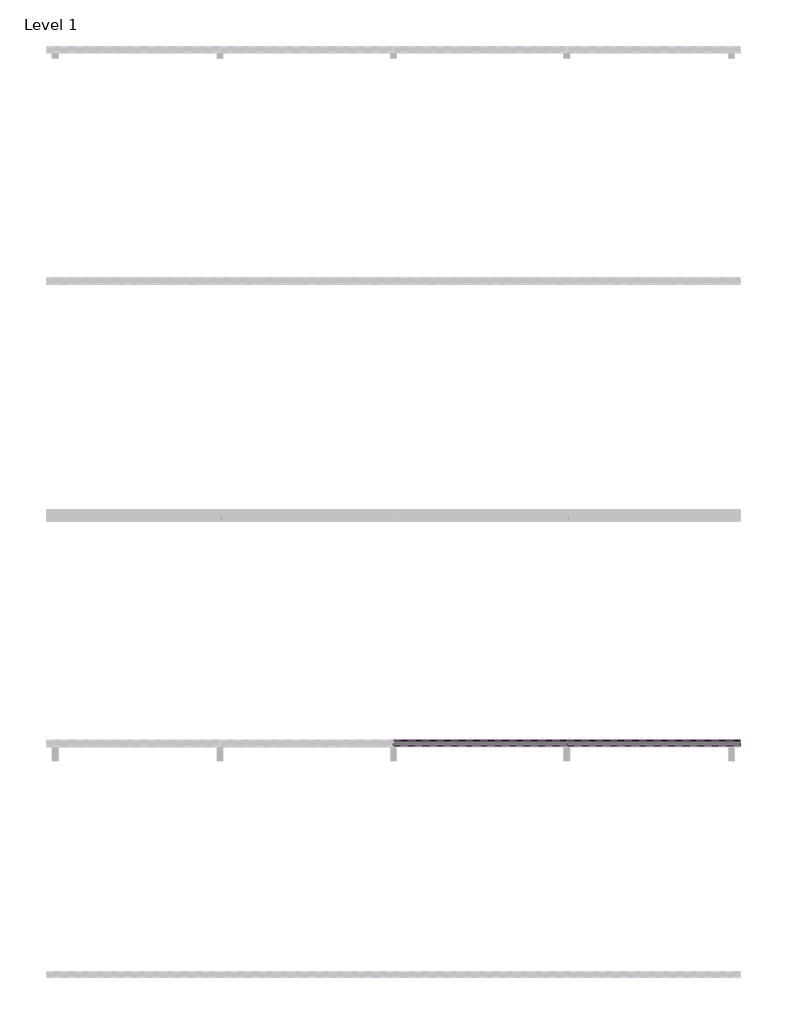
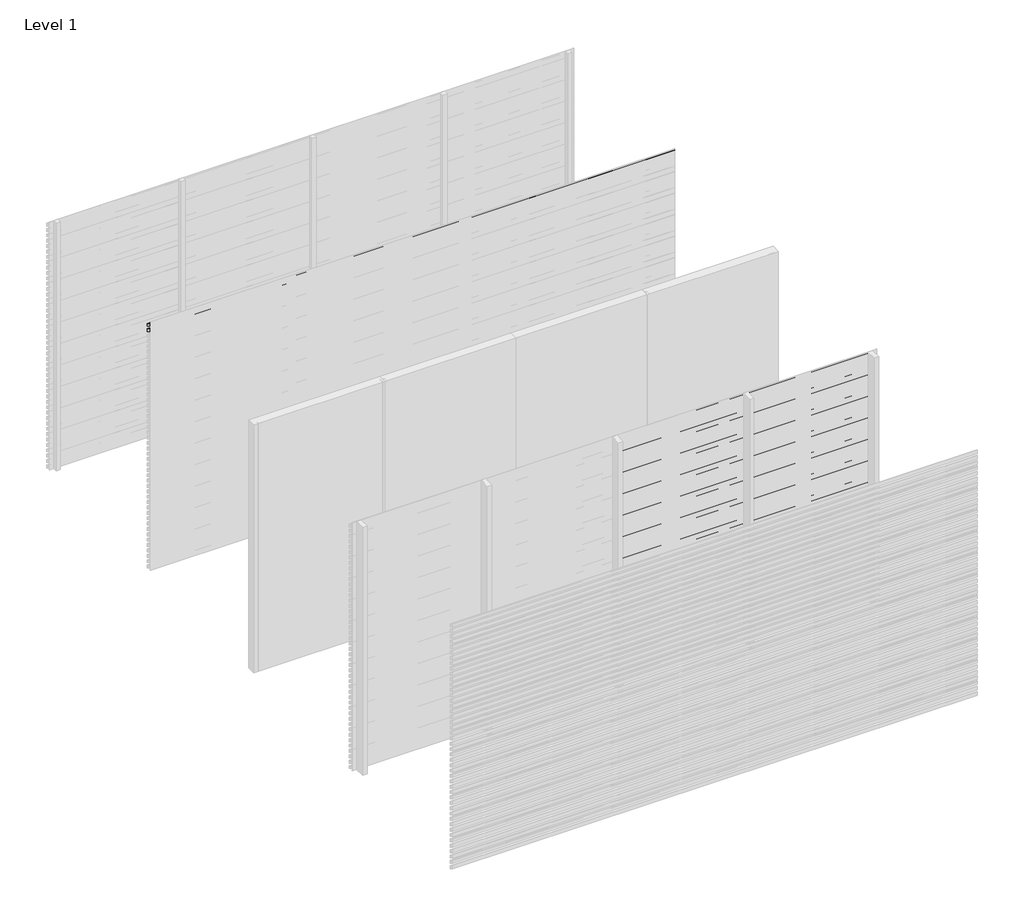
# One storey, part 3 of 10: 96 proxies.
"""IFC4 building model written with IfcOpenShell, lengths in millimetres."""

from ifc_helpers import new_model, si_unit, frame, origin, place, context, project, spatial, polyline, outline, extrude, element, save

model = new_model("IFC4")

# Units and contexts
model_context = context("Model", 3, world=origin())
ifc_project = project(units=[si_unit("LENGTHUNIT", "METRE", prefix="MILLI")], contexts=[model_context])

# Site, building, storey
site = spatial("IfcSite", under=ifc_project)
building = spatial("IfcBuilding", under=site)
storey = spatial("IfcBuildingStorey", under=building, Name="Level 1", Elevation=0.0)

# Proxies
placement = place(None, origin())
element("IfcBuildingElementProxy", 1, Name="Wall Sweeps", at=placement, inside=storey, context=model_context, shape_type="SweptSolid", body=[
    extrude(outline(polyline([(-13995.0, 2990.0), (-13995.0, 2981.2901632), (-13946.0, 2953.0), (-13946.0, 2918.0), (-13997.0, 2947.4448637), (-13997.0, 2990.0), (-13995.0, 2990.0)])), frame((0.0, 0.0, 0.0), z_axis=(1.0, 0.0, 0.0), x_axis=(0.0, 1.0, 0.0)), (0.0, 0.0, 1.0), 6000.0),
])
element("IfcBuildingElementProxy", 2, Name="Wall Sweeps", at=placement, inside=storey, context=model_context, shape_type="SweptSolid", body=[
    extrude(outline(polyline([(-13995.0, 2925.0), (-13995.0, 2916.2901632), (-13946.0, 2888.0), (-13946.0, 2853.0), (-13997.0, 2882.4448637), (-13997.0, 2925.0), (-13995.0, 2925.0)])), frame((0.0, 0.0, 0.0), z_axis=(1.0, 0.0, 0.0), x_axis=(0.0, 1.0, 0.0)), (0.0, 0.0, 1.0), 6000.0),
])
element("IfcBuildingElementProxy", 3, Name="Wall Sweeps", at=placement, inside=storey, context=model_context, shape_type="SweptSolid", body=[
    extrude(outline(polyline([(-17995.0, 2990.0), (-17995.0, 2981.2901632), (-17946.0, 2953.0), (-17946.0, 2918.0), (-17997.0, 2947.4448637), (-17997.0, 2990.0), (-17995.0, 2990.0)])), frame((4499.9999998, 0.0, 0.0), z_axis=(1.0, 0.0, 0.0), x_axis=(0.0, 1.0, 0.0)), (0.0, 0.0, 1.0), 1500.0000002),
])
element("IfcBuildingElementProxy", 4, Name="Wall Sweeps", at=placement, inside=storey, context=model_context, shape_type="SweptSolid", body=[
    extrude(outline(polyline([(-17995.0, 2925.0), (-17995.0, 2916.2901632), (-17946.0, 2888.0), (-17946.0, 2853.0), (-17997.0, 2882.4448637), (-17997.0, 2925.0), (-17995.0, 2925.0)])), frame((4499.9999998, 0.0, 0.0), z_axis=(1.0, 0.0, 0.0), x_axis=(0.0, 1.0, 0.0)), (0.0, 0.0, 1.0), 1500.0000002),
])
element("IfcBuildingElementProxy", 5, Name="Wall Sweeps", at=placement, inside=storey, context=model_context, shape_type="SweptSolid", body=[
    extrude(outline(polyline([(-17995.0, 2860.0), (-17995.0, 2851.2901632), (-17946.0, 2823.0), (-17946.0, 2788.0), (-17997.0, 2817.4448637), (-17997.0, 2860.0), (-17995.0, 2860.0)])), frame((4499.9999998, 0.0, 0.0), z_axis=(1.0, 0.0, 0.0), x_axis=(0.0, 1.0, 0.0)), (0.0, 0.0, 1.0), 1500.0000002),
])
element("IfcBuildingElementProxy", 6, Name="Wall Sweeps", at=placement, inside=storey, context=model_context, shape_type="SweptSolid", body=[
    extrude(outline(polyline([(-17995.0, 2795.0), (-17995.0, 2786.2901632), (-17946.0, 2758.0), (-17946.0, 2723.0), (-17997.0, 2752.4448637), (-17997.0, 2795.0), (-17995.0, 2795.0)])), frame((4499.9999998, 0.0, 0.0), z_axis=(1.0, 0.0, 0.0), x_axis=(0.0, 1.0, 0.0)), (0.0, 0.0, 1.0), 1500.0000002),
])
element("IfcBuildingElementProxy", 7, Name="Wall Sweeps", at=placement, inside=storey, context=model_context, shape_type="SweptSolid", body=[
    extrude(outline(polyline([(-17995.0, 2730.0), (-17995.0, 2721.2901632), (-17946.0, 2693.0), (-17946.0, 2658.0), (-17997.0, 2687.4448637), (-17997.0, 2730.0), (-17995.0, 2730.0)])), frame((4499.9999998, 0.0, 0.0), z_axis=(1.0, 0.0, 0.0), x_axis=(0.0, 1.0, 0.0)), (0.0, 0.0, 1.0), 1500.0000002),
])
element("IfcBuildingElementProxy", 8, Name="Wall Sweeps", at=placement, inside=storey, context=model_context, shape_type="SweptSolid", body=[
    extrude(outline(polyline([(-17995.0, 2665.0), (-17995.0, 2656.2901632), (-17946.0, 2628.0), (-17946.0, 2593.0), (-17997.0, 2622.4448637), (-17997.0, 2665.0), (-17995.0, 2665.0)])), frame((4499.9999998, 0.0, 0.0), z_axis=(1.0, 0.0, 0.0), x_axis=(0.0, 1.0, 0.0)), (0.0, 0.0, 1.0), 1500.0000002),
])
element("IfcBuildingElementProxy", 9, Name="Wall Sweeps", at=placement, inside=storey, context=model_context, shape_type="SweptSolid", body=[
    extrude(outline(polyline([(-17995.0, 2600.0), (-17995.0, 2591.2901632), (-17946.0, 2563.0), (-17946.0, 2528.0), (-17997.0, 2557.4448637), (-17997.0, 2600.0), (-17995.0, 2600.0)])), frame((4499.9999998, 0.0, 0.0), z_axis=(1.0, 0.0, 0.0), x_axis=(0.0, 1.0, 0.0)), (0.0, 0.0, 1.0), 1500.0000002),
])
element("IfcBuildingElementProxy", 10, Name="Wall Sweeps", at=placement, inside=storey, context=model_context, shape_type="SweptSolid", body=[
    extrude(outline(polyline([(-17995.0, 2535.0), (-17995.0, 2526.2901632), (-17946.0, 2498.0), (-17946.0, 2463.0), (-17997.0, 2492.4448637), (-17997.0, 2535.0), (-17995.0, 2535.0)])), frame((4499.9999998, 0.0, 0.0), z_axis=(1.0, 0.0, 0.0), x_axis=(0.0, 1.0, 0.0)), (0.0, 0.0, 1.0), 1500.0000002),
])
element("IfcBuildingElementProxy", 11, Name="Wall Sweeps", at=placement, inside=storey, context=model_context, shape_type="SweptSolid", body=[
    extrude(outline(polyline([(-17995.0, 2470.0), (-17995.0, 2461.2901632), (-17946.0, 2433.0), (-17946.0, 2398.0), (-17997.0, 2427.4448637), (-17997.0, 2470.0), (-17995.0, 2470.0)])), frame((4499.9999998, 0.0, 0.0), z_axis=(1.0, 0.0, 0.0), x_axis=(0.0, 1.0, 0.0)), (0.0, 0.0, 1.0), 1500.0000002),
])
element("IfcBuildingElementProxy", 12, Name="Wall Sweeps", at=placement, inside=storey, context=model_context, shape_type="SweptSolid", body=[
    extrude(outline(polyline([(-17995.0, 2405.0), (-17995.0, 2396.2901632), (-17946.0, 2368.0), (-17946.0, 2333.0), (-17997.0, 2362.4448637), (-17997.0, 2405.0), (-17995.0, 2405.0)])), frame((4499.9999998, 0.0, 0.0), z_axis=(1.0, 0.0, 0.0), x_axis=(0.0, 1.0, 0.0)), (0.0, 0.0, 1.0), 1500.0000002),
])
element("IfcBuildingElementProxy", 13, Name="Wall Sweeps", at=placement, inside=storey, context=model_context, shape_type="SweptSolid", body=[
    extrude(outline(polyline([(-17995.0, 2340.0), (-17995.0, 2331.2901632), (-17946.0, 2303.0), (-17946.0, 2268.0), (-17997.0, 2297.4448637), (-17997.0, 2340.0), (-17995.0, 2340.0)])), frame((4499.9999998, 0.0, 0.0), z_axis=(1.0, 0.0, 0.0), x_axis=(0.0, 1.0, 0.0)), (0.0, 0.0, 1.0), 1500.0000002),
])
element("IfcBuildingElementProxy", 14, Name="Wall Sweeps", at=placement, inside=storey, context=model_context, shape_type="SweptSolid", body=[
    extrude(outline(polyline([(-17995.0, 2275.0), (-17995.0, 2266.2901632), (-17946.0, 2238.0), (-17946.0, 2203.0), (-17997.0, 2232.4448637), (-17997.0, 2275.0), (-17995.0, 2275.0)])), frame((4499.9999998, 0.0, 0.0), z_axis=(1.0, 0.0, 0.0), x_axis=(0.0, 1.0, 0.0)), (0.0, 0.0, 1.0), 1500.0000002),
])
element("IfcBuildingElementProxy", 15, Name="Wall Sweeps", at=placement, inside=storey, context=model_context, shape_type="SweptSolid", body=[
    extrude(outline(polyline([(-17995.0, 2210.0), (-17995.0, 2201.2901632), (-17946.0, 2173.0), (-17946.0, 2138.0), (-17997.0, 2167.4448637), (-17997.0, 2210.0), (-17995.0, 2210.0)])), frame((4499.9999998, 0.0, 0.0), z_axis=(1.0, 0.0, 0.0), x_axis=(0.0, 1.0, 0.0)), (0.0, 0.0, 1.0), 1500.0000002),
])
element("IfcBuildingElementProxy", 16, Name="Wall Sweeps", at=placement, inside=storey, context=model_context, shape_type="SweptSolid", body=[
    extrude(outline(polyline([(-17995.0, 2145.0), (-17995.0, 2136.2901632), (-17946.0, 2108.0), (-17946.0, 2073.0), (-17997.0, 2102.4448637), (-17997.0, 2145.0), (-17995.0, 2145.0)])), frame((4499.9999998, 0.0, 0.0), z_axis=(1.0, 0.0, 0.0), x_axis=(0.0, 1.0, 0.0)), (0.0, 0.0, 1.0), 1500.0000002),
])
element("IfcBuildingElementProxy", 17, Name="Wall Sweeps", at=placement, inside=storey, context=model_context, shape_type="SweptSolid", body=[
    extrude(outline(polyline([(-17995.0, 2080.0), (-17995.0, 2071.2901632), (-17946.0, 2043.0), (-17946.0, 2008.0), (-17997.0, 2037.4448637), (-17997.0, 2080.0), (-17995.0, 2080.0)])), frame((4499.9999998, 0.0, 0.0), z_axis=(1.0, 0.0, 0.0), x_axis=(0.0, 1.0, 0.0)), (0.0, 0.0, 1.0), 1500.0000002),
])
element("IfcBuildingElementProxy", 18, Name="Wall Sweeps", at=placement, inside=storey, context=model_context, shape_type="SweptSolid", body=[
    extrude(outline(polyline([(-17995.0, 2015.0), (-17995.0, 2006.2901632), (-17946.0, 1978.0), (-17946.0, 1943.0), (-17997.0, 1972.4448637), (-17997.0, 2015.0), (-17995.0, 2015.0)])), frame((4499.9999998, 0.0, 0.0), z_axis=(1.0, 0.0, 0.0), x_axis=(0.0, 1.0, 0.0)), (0.0, 0.0, 1.0), 1500.0000002),
])
element("IfcBuildingElementProxy", 19, Name="Wall Sweeps", at=placement, inside=storey, context=model_context, shape_type="SweptSolid", body=[
    extrude(outline(polyline([(-17995.0, 1950.0), (-17995.0, 1941.2901632), (-17946.0, 1913.0), (-17946.0, 1878.0), (-17997.0, 1907.4448637), (-17997.0, 1950.0), (-17995.0, 1950.0)])), frame((4499.9999998, 0.0, 0.0), z_axis=(1.0, 0.0, 0.0), x_axis=(0.0, 1.0, 0.0)), (0.0, 0.0, 1.0), 1500.0000002),
])
element("IfcBuildingElementProxy", 20, Name="Wall Sweeps", at=placement, inside=storey, context=model_context, shape_type="SweptSolid", body=[
    extrude(outline(polyline([(-17995.0, 1885.0), (-17995.0, 1876.2901632), (-17946.0, 1848.0), (-17946.0, 1813.0), (-17997.0, 1842.4448637), (-17997.0, 1885.0), (-17995.0, 1885.0)])), frame((4499.9999998, 0.0, 0.0), z_axis=(1.0, 0.0, 0.0), x_axis=(0.0, 1.0, 0.0)), (0.0, 0.0, 1.0), 1500.0000002),
])
element("IfcBuildingElementProxy", 21, Name="Wall Sweeps", at=placement, inside=storey, context=model_context, shape_type="SweptSolid", body=[
    extrude(outline(polyline([(-17995.0, 1820.0), (-17995.0, 1811.2901632), (-17946.0, 1783.0), (-17946.0, 1748.0), (-17997.0, 1777.4448637), (-17997.0, 1820.0), (-17995.0, 1820.0)])), frame((4499.9999998, 0.0, 0.0), z_axis=(1.0, 0.0, 0.0), x_axis=(0.0, 1.0, 0.0)), (0.0, 0.0, 1.0), 1500.0000002),
])
element("IfcBuildingElementProxy", 22, Name="Wall Sweeps", at=placement, inside=storey, context=model_context, shape_type="SweptSolid", body=[
    extrude(outline(polyline([(-17995.0, 1755.0), (-17995.0, 1746.2901632), (-17946.0, 1718.0), (-17946.0, 1683.0), (-17997.0, 1712.4448637), (-17997.0, 1755.0), (-17995.0, 1755.0)])), frame((4499.9999998, 0.0, 0.0), z_axis=(1.0, 0.0, 0.0), x_axis=(0.0, 1.0, 0.0)), (0.0, 0.0, 1.0), 1500.0000002),
])
element("IfcBuildingElementProxy", 23, Name="Wall Sweeps", at=placement, inside=storey, context=model_context, shape_type="SweptSolid", body=[
    extrude(outline(polyline([(-17995.0, 1690.0), (-17995.0, 1681.2901632), (-17946.0, 1653.0), (-17946.0, 1618.0), (-17997.0, 1647.4448637), (-17997.0, 1690.0), (-17995.0, 1690.0)])), frame((4499.9999998, 0.0, 0.0), z_axis=(1.0, 0.0, 0.0), x_axis=(0.0, 1.0, 0.0)), (0.0, 0.0, 1.0), 1500.0000002),
])
element("IfcBuildingElementProxy", 24, Name="Wall Sweeps", at=placement, inside=storey, context=model_context, shape_type="SweptSolid", body=[
    extrude(outline(polyline([(-17995.0, 1625.0), (-17995.0, 1616.2901632), (-17946.0, 1588.0), (-17946.0, 1553.0), (-17997.0, 1582.4448637), (-17997.0, 1625.0), (-17995.0, 1625.0)])), frame((4499.9999998, 0.0, 0.0), z_axis=(1.0, 0.0, 0.0), x_axis=(0.0, 1.0, 0.0)), (0.0, 0.0, 1.0), 1500.0000002),
])
element("IfcBuildingElementProxy", 25, Name="Wall Sweeps", at=placement, inside=storey, context=model_context, shape_type="SweptSolid", body=[
    extrude(outline(polyline([(-17995.0, 1560.0), (-17995.0, 1551.2901632), (-17946.0, 1523.0), (-17946.0, 1488.0), (-17997.0, 1517.4448637), (-17997.0, 1560.0), (-17995.0, 1560.0)])), frame((4499.9999998, 0.0, 0.0), z_axis=(1.0, 0.0, 0.0), x_axis=(0.0, 1.0, 0.0)), (0.0, 0.0, 1.0), 1500.0000002),
])
element("IfcBuildingElementProxy", 26, Name="Wall Sweeps", at=placement, inside=storey, context=model_context, shape_type="SweptSolid", body=[
    extrude(outline(polyline([(-17995.0, 1495.0), (-17995.0, 1486.2901632), (-17946.0, 1458.0), (-17946.0, 1423.0), (-17997.0, 1452.4448637), (-17997.0, 1495.0), (-17995.0, 1495.0)])), frame((4499.9999998, 0.0, 0.0), z_axis=(1.0, 0.0, 0.0), x_axis=(0.0, 1.0, 0.0)), (0.0, 0.0, 1.0), 1500.0000002),
])
element("IfcBuildingElementProxy", 27, Name="Wall Sweeps", at=placement, inside=storey, context=model_context, shape_type="SweptSolid", body=[
    extrude(outline(polyline([(-17995.0, 1430.0), (-17995.0, 1421.2901632), (-17946.0, 1393.0), (-17946.0, 1358.0), (-17997.0, 1387.4448637), (-17997.0, 1430.0), (-17995.0, 1430.0)])), frame((4499.9999998, 0.0, 0.0), z_axis=(1.0, 0.0, 0.0), x_axis=(0.0, 1.0, 0.0)), (0.0, 0.0, 1.0), 1500.0000002),
])
element("IfcBuildingElementProxy", 28, Name="Wall Sweeps", at=placement, inside=storey, context=model_context, shape_type="SweptSolid", body=[
    extrude(outline(polyline([(-17995.0, 1365.0), (-17995.0, 1356.2901632), (-17946.0, 1328.0), (-17946.0, 1293.0), (-17997.0, 1322.4448637), (-17997.0, 1365.0), (-17995.0, 1365.0)])), frame((4499.9999998, 0.0, 0.0), z_axis=(1.0, 0.0, 0.0), x_axis=(0.0, 1.0, 0.0)), (0.0, 0.0, 1.0), 1500.0000002),
])
element("IfcBuildingElementProxy", 29, Name="Wall Sweeps", at=placement, inside=storey, context=model_context, shape_type="SweptSolid", body=[
    extrude(outline(polyline([(-17995.0, 1300.0), (-17995.0, 1291.2901632), (-17946.0, 1263.0), (-17946.0, 1228.0), (-17997.0, 1257.4448637), (-17997.0, 1300.0), (-17995.0, 1300.0)])), frame((4499.9999998, 0.0, 0.0), z_axis=(1.0, 0.0, 0.0), x_axis=(0.0, 1.0, 0.0)), (0.0, 0.0, 1.0), 1500.0000002),
])
element("IfcBuildingElementProxy", 30, Name="Wall Sweeps", at=placement, inside=storey, context=model_context, shape_type="SweptSolid", body=[
    extrude(outline(polyline([(-17995.0, 1235.0), (-17995.0, 1226.2901632), (-17946.0, 1198.0), (-17946.0, 1163.0), (-17997.0, 1192.4448637), (-17997.0, 1235.0), (-17995.0, 1235.0)])), frame((4499.9999998, 0.0, 0.0), z_axis=(1.0, 0.0, 0.0), x_axis=(0.0, 1.0, 0.0)), (0.0, 0.0, 1.0), 1500.0000002),
])
element("IfcBuildingElementProxy", 31, Name="Wall Sweeps", at=placement, inside=storey, context=model_context, shape_type="SweptSolid", body=[
    extrude(outline(polyline([(-17995.0, 1170.0), (-17995.0, 1161.2901632), (-17946.0, 1133.0), (-17946.0, 1098.0), (-17997.0, 1127.4448637), (-17997.0, 1170.0), (-17995.0, 1170.0)])), frame((4499.9999998, 0.0, 0.0), z_axis=(1.0, 0.0, 0.0), x_axis=(0.0, 1.0, 0.0)), (0.0, 0.0, 1.0), 1500.0000002),
])
element("IfcBuildingElementProxy", 32, Name="Wall Sweeps", at=placement, inside=storey, context=model_context, shape_type="SweptSolid", body=[
    extrude(outline(polyline([(-17995.0, 1105.0), (-17995.0, 1096.2901632), (-17946.0, 1068.0), (-17946.0, 1033.0), (-17997.0, 1062.4448637), (-17997.0, 1105.0), (-17995.0, 1105.0)])), frame((4499.9999998, 0.0, 0.0), z_axis=(1.0, 0.0, 0.0), x_axis=(0.0, 1.0, 0.0)), (0.0, 0.0, 1.0), 1500.0000002),
])
element("IfcBuildingElementProxy", 33, Name="Wall Sweeps", at=placement, inside=storey, context=model_context, shape_type="SweptSolid", body=[
    extrude(outline(polyline([(-17995.0, 1040.0), (-17995.0, 1031.2901632), (-17946.0, 1003.0), (-17946.0, 968.0), (-17997.0, 997.4448637), (-17997.0, 1040.0), (-17995.0, 1040.0)])), frame((4499.9999998, 0.0, 0.0), z_axis=(1.0, 0.0, 0.0), x_axis=(0.0, 1.0, 0.0)), (0.0, 0.0, 1.0), 1500.0000002),
])
element("IfcBuildingElementProxy", 34, Name="Wall Sweeps", at=placement, inside=storey, context=model_context, shape_type="SweptSolid", body=[
    extrude(outline(polyline([(-17995.0, 975.0), (-17995.0, 966.2901632), (-17946.0, 938.0), (-17946.0, 903.0), (-17997.0, 932.4448637), (-17997.0, 975.0), (-17995.0, 975.0)])), frame((4499.9999998, 0.0, 0.0), z_axis=(1.0, 0.0, 0.0), x_axis=(0.0, 1.0, 0.0)), (0.0, 0.0, 1.0), 1500.0000002),
])
element("IfcBuildingElementProxy", 35, Name="Wall Sweeps", at=placement, inside=storey, context=model_context, shape_type="SweptSolid", body=[
    extrude(outline(polyline([(-17995.0, 910.0), (-17995.0, 901.2901632), (-17946.0, 873.0), (-17946.0, 838.0), (-17997.0, 867.4448637), (-17997.0, 910.0), (-17995.0, 910.0)])), frame((4499.9999998, 0.0, 0.0), z_axis=(1.0, 0.0, 0.0), x_axis=(0.0, 1.0, 0.0)), (0.0, 0.0, 1.0), 1500.0000002),
])
element("IfcBuildingElementProxy", 36, Name="Wall Sweeps", at=placement, inside=storey, context=model_context, shape_type="SweptSolid", body=[
    extrude(outline(polyline([(-17995.0, 845.0), (-17995.0, 836.2901632), (-17946.0, 808.0), (-17946.0, 773.0), (-17997.0, 802.4448637), (-17997.0, 845.0), (-17995.0, 845.0)])), frame((4499.9999998, 0.0, 0.0), z_axis=(1.0, 0.0, 0.0), x_axis=(0.0, 1.0, 0.0)), (0.0, 0.0, 1.0), 1500.0000002),
])
element("IfcBuildingElementProxy", 37, Name="Wall Sweeps", at=placement, inside=storey, context=model_context, shape_type="SweptSolid", body=[
    extrude(outline(polyline([(-17995.0, 780.0), (-17995.0, 771.2901632), (-17946.0, 743.0), (-17946.0, 708.0), (-17997.0, 737.4448637), (-17997.0, 780.0), (-17995.0, 780.0)])), frame((4499.9999998, 0.0, 0.0), z_axis=(1.0, 0.0, 0.0), x_axis=(0.0, 1.0, 0.0)), (0.0, 0.0, 1.0), 1500.0000002),
])
element("IfcBuildingElementProxy", 38, Name="Wall Sweeps", at=placement, inside=storey, context=model_context, shape_type="SweptSolid", body=[
    extrude(outline(polyline([(-17995.0, 715.0), (-17995.0, 706.2901632), (-17946.0, 678.0), (-17946.0, 643.0), (-17997.0, 672.4448637), (-17997.0, 715.0), (-17995.0, 715.0)])), frame((4499.9999998, 0.0, 0.0), z_axis=(1.0, 0.0, 0.0), x_axis=(0.0, 1.0, 0.0)), (0.0, 0.0, 1.0), 1500.0000002),
])
element("IfcBuildingElementProxy", 39, Name="Wall Sweeps", at=placement, inside=storey, context=model_context, shape_type="SweptSolid", body=[
    extrude(outline(polyline([(-17995.0, 650.0), (-17995.0, 641.2901632), (-17946.0, 613.0), (-17946.0, 578.0), (-17997.0, 607.4448637), (-17997.0, 650.0), (-17995.0, 650.0)])), frame((4499.9999998, 0.0, 0.0), z_axis=(1.0, 0.0, 0.0), x_axis=(0.0, 1.0, 0.0)), (0.0, 0.0, 1.0), 1500.0000002),
])
element("IfcBuildingElementProxy", 40, Name="Wall Sweeps", at=placement, inside=storey, context=model_context, shape_type="SweptSolid", body=[
    extrude(outline(polyline([(-17995.0, 585.0), (-17995.0, 576.2901632), (-17946.0, 548.0), (-17946.0, 513.0), (-17997.0, 542.4448637), (-17997.0, 585.0), (-17995.0, 585.0)])), frame((4499.9999998, 0.0, 0.0), z_axis=(1.0, 0.0, 0.0), x_axis=(0.0, 1.0, 0.0)), (0.0, 0.0, 1.0), 1500.0000002),
])
element("IfcBuildingElementProxy", 41, Name="Wall Sweeps", at=placement, inside=storey, context=model_context, shape_type="SweptSolid", body=[
    extrude(outline(polyline([(-17995.0, 520.0), (-17995.0, 511.2901632), (-17946.0, 483.0), (-17946.0, 448.0), (-17997.0, 477.4448637), (-17997.0, 520.0), (-17995.0, 520.0)])), frame((4499.9999998, 0.0, 0.0), z_axis=(1.0, 0.0, 0.0), x_axis=(0.0, 1.0, 0.0)), (0.0, 0.0, 1.0), 1500.0000002),
])
element("IfcBuildingElementProxy", 42, Name="Wall Sweeps", at=placement, inside=storey, context=model_context, shape_type="SweptSolid", body=[
    extrude(outline(polyline([(-17995.0, 455.0), (-17995.0, 446.2901632), (-17946.0, 418.0), (-17946.0, 383.0), (-17997.0, 412.4448637), (-17997.0, 455.0), (-17995.0, 455.0)])), frame((4499.9999998, 0.0, 0.0), z_axis=(1.0, 0.0, 0.0), x_axis=(0.0, 1.0, 0.0)), (0.0, 0.0, 1.0), 1500.0000002),
])
element("IfcBuildingElementProxy", 43, Name="Wall Sweeps", at=placement, inside=storey, context=model_context, shape_type="SweptSolid", body=[
    extrude(outline(polyline([(-17995.0, 390.0), (-17995.0, 381.2901632), (-17946.0, 353.0), (-17946.0, 318.0), (-17997.0, 347.4448637), (-17997.0, 390.0), (-17995.0, 390.0)])), frame((4499.9999998, 0.0, 0.0), z_axis=(1.0, 0.0, 0.0), x_axis=(0.0, 1.0, 0.0)), (0.0, 0.0, 1.0), 1500.0000002),
])
element("IfcBuildingElementProxy", 44, Name="Wall Sweeps", at=placement, inside=storey, context=model_context, shape_type="SweptSolid", body=[
    extrude(outline(polyline([(-17995.0, 325.0), (-17995.0, 316.2901632), (-17946.0, 288.0), (-17946.0, 253.0), (-17997.0, 282.4448637), (-17997.0, 325.0), (-17995.0, 325.0)])), frame((4499.9999998, 0.0, 0.0), z_axis=(1.0, 0.0, 0.0), x_axis=(0.0, 1.0, 0.0)), (0.0, 0.0, 1.0), 1500.0000002),
])
element("IfcBuildingElementProxy", 45, Name="Wall Sweeps", at=placement, inside=storey, context=model_context, shape_type="SweptSolid", body=[
    extrude(outline(polyline([(-17995.0, 260.0), (-17995.0, 251.2901632), (-17946.0, 223.0), (-17946.0, 188.0), (-17997.0, 217.4448637), (-17997.0, 260.0), (-17995.0, 260.0)])), frame((4499.9999998, 0.0, 0.0), z_axis=(1.0, 0.0, 0.0), x_axis=(0.0, 1.0, 0.0)), (0.0, 0.0, 1.0), 1500.0000002),
])
element("IfcBuildingElementProxy", 46, Name="Wall Sweeps", at=placement, inside=storey, context=model_context, shape_type="SweptSolid", body=[
    extrude(outline(polyline([(-17995.0, 195.0), (-17995.0, 186.2901632), (-17946.0, 158.0), (-17946.0, 123.0), (-17997.0, 152.4448637), (-17997.0, 195.0), (-17995.0, 195.0)])), frame((4499.9999998, 0.0, 0.0), z_axis=(1.0, 0.0, 0.0), x_axis=(0.0, 1.0, 0.0)), (0.0, 0.0, 1.0), 1500.0000002),
])
element("IfcBuildingElementProxy", 47, Name="Wall Sweeps", at=placement, inside=storey, context=model_context, shape_type="SweptSolid", body=[
    extrude(outline(polyline([(-17995.0, 130.0), (-17995.0, 121.2901632), (-17946.0, 93.0), (-17946.0, 58.0), (-17997.0, 87.4448637), (-17997.0, 130.0), (-17995.0, 130.0)])), frame((4499.9999998, 0.0, 0.0), z_axis=(1.0, 0.0, 0.0), x_axis=(0.0, 1.0, 0.0)), (0.0, 0.0, 1.0), 1500.0000002),
])
element("IfcBuildingElementProxy", 48, Name="Wall Sweeps", at=placement, inside=storey, context=model_context, shape_type="SweptSolid", body=[
    extrude(outline(polyline([(-17995.0, 65.0), (-17995.0, 56.2901632), (-17946.0, 28.0), (-17946.0, -7.0), (-17997.0, 22.4448637), (-17997.0, 65.0), (-17995.0, 65.0)])), frame((4499.9999998, 0.0, 0.0), z_axis=(1.0, 0.0, 0.0), x_axis=(0.0, 1.0, 0.0)), (0.0, 0.0, 1.0), 1500.0000002),
])
element("IfcBuildingElementProxy", 49, Name="Wall Sweeps", at=placement, inside=storey, context=model_context, shape_type="SweptSolid", body=[
    extrude(outline(polyline([(-17995.0, 2990.0), (-17995.0, 2981.2901632), (-17946.0, 2953.0), (-17946.0, 2918.0), (-17997.0, 2947.4448637), (-17997.0, 2990.0), (-17995.0, 2990.0)])), frame((3000.0, 0.0, 0.0), z_axis=(1.0, 0.0, 0.0), x_axis=(0.0, 1.0, 0.0)), (0.0, 0.0, 1.0), 1499.9999998),
])
element("IfcBuildingElementProxy", 50, Name="Wall Sweeps", at=placement, inside=storey, context=model_context, shape_type="SweptSolid", body=[
    extrude(outline(polyline([(-17995.0, 2925.0), (-17995.0, 2916.2901632), (-17946.0, 2888.0), (-17946.0, 2853.0), (-17997.0, 2882.4448637), (-17997.0, 2925.0), (-17995.0, 2925.0)])), frame((3000.0, 0.0, 0.0), z_axis=(1.0, 0.0, 0.0), x_axis=(0.0, 1.0, 0.0)), (0.0, 0.0, 1.0), 1499.9999998),
])
element("IfcBuildingElementProxy", 51, Name="Wall Sweeps", at=placement, inside=storey, context=model_context, shape_type="SweptSolid", body=[
    extrude(outline(polyline([(-17995.0, 2860.0), (-17995.0, 2851.2901632), (-17946.0, 2823.0), (-17946.0, 2788.0), (-17997.0, 2817.4448637), (-17997.0, 2860.0), (-17995.0, 2860.0)])), frame((3000.0, 0.0, 0.0), z_axis=(1.0, 0.0, 0.0), x_axis=(0.0, 1.0, 0.0)), (0.0, 0.0, 1.0), 1499.9999998),
])
element("IfcBuildingElementProxy", 52, Name="Wall Sweeps", at=placement, inside=storey, context=model_context, shape_type="SweptSolid", body=[
    extrude(outline(polyline([(-17995.0, 2795.0), (-17995.0, 2786.2901632), (-17946.0, 2758.0), (-17946.0, 2723.0), (-17997.0, 2752.4448637), (-17997.0, 2795.0), (-17995.0, 2795.0)])), frame((3000.0, 0.0, 0.0), z_axis=(1.0, 0.0, 0.0), x_axis=(0.0, 1.0, 0.0)), (0.0, 0.0, 1.0), 1499.9999998),
])
element("IfcBuildingElementProxy", 53, Name="Wall Sweeps", at=placement, inside=storey, context=model_context, shape_type="SweptSolid", body=[
    extrude(outline(polyline([(-17995.0, 2730.0), (-17995.0, 2721.2901632), (-17946.0, 2693.0), (-17946.0, 2658.0), (-17997.0, 2687.4448637), (-17997.0, 2730.0), (-17995.0, 2730.0)])), frame((3000.0, 0.0, 0.0), z_axis=(1.0, 0.0, 0.0), x_axis=(0.0, 1.0, 0.0)), (0.0, 0.0, 1.0), 1499.9999998),
])
element("IfcBuildingElementProxy", 54, Name="Wall Sweeps", at=placement, inside=storey, context=model_context, shape_type="SweptSolid", body=[
    extrude(outline(polyline([(-17995.0, 2665.0), (-17995.0, 2656.2901632), (-17946.0, 2628.0), (-17946.0, 2593.0), (-17997.0, 2622.4448637), (-17997.0, 2665.0), (-17995.0, 2665.0)])), frame((3000.0, 0.0, 0.0), z_axis=(1.0, 0.0, 0.0), x_axis=(0.0, 1.0, 0.0)), (0.0, 0.0, 1.0), 1499.9999998),
])
element("IfcBuildingElementProxy", 55, Name="Wall Sweeps", at=placement, inside=storey, context=model_context, shape_type="SweptSolid", body=[
    extrude(outline(polyline([(-17995.0, 2600.0), (-17995.0, 2591.2901632), (-17946.0, 2563.0), (-17946.0, 2528.0), (-17997.0, 2557.4448637), (-17997.0, 2600.0), (-17995.0, 2600.0)])), frame((3000.0, 0.0, 0.0), z_axis=(1.0, 0.0, 0.0), x_axis=(0.0, 1.0, 0.0)), (0.0, 0.0, 1.0), 1499.9999998),
])
element("IfcBuildingElementProxy", 56, Name="Wall Sweeps", at=placement, inside=storey, context=model_context, shape_type="SweptSolid", body=[
    extrude(outline(polyline([(-17995.0, 2535.0), (-17995.0, 2526.2901632), (-17946.0, 2498.0), (-17946.0, 2463.0), (-17997.0, 2492.4448637), (-17997.0, 2535.0), (-17995.0, 2535.0)])), frame((3000.0, 0.0, 0.0), z_axis=(1.0, 0.0, 0.0), x_axis=(0.0, 1.0, 0.0)), (0.0, 0.0, 1.0), 1499.9999998),
])
element("IfcBuildingElementProxy", 57, Name="Wall Sweeps", at=placement, inside=storey, context=model_context, shape_type="SweptSolid", body=[
    extrude(outline(polyline([(-17995.0, 2470.0), (-17995.0, 2461.2901632), (-17946.0, 2433.0), (-17946.0, 2398.0), (-17997.0, 2427.4448637), (-17997.0, 2470.0), (-17995.0, 2470.0)])), frame((3000.0, 0.0, 0.0), z_axis=(1.0, 0.0, 0.0), x_axis=(0.0, 1.0, 0.0)), (0.0, 0.0, 1.0), 1499.9999998),
])
element("IfcBuildingElementProxy", 58, Name="Wall Sweeps", at=placement, inside=storey, context=model_context, shape_type="SweptSolid", body=[
    extrude(outline(polyline([(-17995.0, 2405.0), (-17995.0, 2396.2901632), (-17946.0, 2368.0), (-17946.0, 2333.0), (-17997.0, 2362.4448637), (-17997.0, 2405.0), (-17995.0, 2405.0)])), frame((3000.0, 0.0, 0.0), z_axis=(1.0, 0.0, 0.0), x_axis=(0.0, 1.0, 0.0)), (0.0, 0.0, 1.0), 1499.9999998),
])
element("IfcBuildingElementProxy", 59, Name="Wall Sweeps", at=placement, inside=storey, context=model_context, shape_type="SweptSolid", body=[
    extrude(outline(polyline([(-17995.0, 2340.0), (-17995.0, 2331.2901632), (-17946.0, 2303.0), (-17946.0, 2268.0), (-17997.0, 2297.4448637), (-17997.0, 2340.0), (-17995.0, 2340.0)])), frame((3000.0, 0.0, 0.0), z_axis=(1.0, 0.0, 0.0), x_axis=(0.0, 1.0, 0.0)), (0.0, 0.0, 1.0), 1499.9999998),
])
element("IfcBuildingElementProxy", 60, Name="Wall Sweeps", at=placement, inside=storey, context=model_context, shape_type="SweptSolid", body=[
    extrude(outline(polyline([(-17995.0, 2275.0), (-17995.0, 2266.2901632), (-17946.0, 2238.0), (-17946.0, 2203.0), (-17997.0, 2232.4448637), (-17997.0, 2275.0), (-17995.0, 2275.0)])), frame((3000.0, 0.0, 0.0), z_axis=(1.0, 0.0, 0.0), x_axis=(0.0, 1.0, 0.0)), (0.0, 0.0, 1.0), 1499.9999998),
])
element("IfcBuildingElementProxy", 61, Name="Wall Sweeps", at=placement, inside=storey, context=model_context, shape_type="SweptSolid", body=[
    extrude(outline(polyline([(-17995.0, 2210.0), (-17995.0, 2201.2901632), (-17946.0, 2173.0), (-17946.0, 2138.0), (-17997.0, 2167.4448637), (-17997.0, 2210.0), (-17995.0, 2210.0)])), frame((3000.0, 0.0, 0.0), z_axis=(1.0, 0.0, 0.0), x_axis=(0.0, 1.0, 0.0)), (0.0, 0.0, 1.0), 1499.9999998),
])
element("IfcBuildingElementProxy", 62, Name="Wall Sweeps", at=placement, inside=storey, context=model_context, shape_type="SweptSolid", body=[
    extrude(outline(polyline([(-17995.0, 2145.0), (-17995.0, 2136.2901632), (-17946.0, 2108.0), (-17946.0, 2073.0), (-17997.0, 2102.4448637), (-17997.0, 2145.0), (-17995.0, 2145.0)])), frame((3000.0, 0.0, 0.0), z_axis=(1.0, 0.0, 0.0), x_axis=(0.0, 1.0, 0.0)), (0.0, 0.0, 1.0), 1499.9999998),
])
element("IfcBuildingElementProxy", 63, Name="Wall Sweeps", at=placement, inside=storey, context=model_context, shape_type="SweptSolid", body=[
    extrude(outline(polyline([(-17995.0, 2080.0), (-17995.0, 2071.2901632), (-17946.0, 2043.0), (-17946.0, 2008.0), (-17997.0, 2037.4448637), (-17997.0, 2080.0), (-17995.0, 2080.0)])), frame((3000.0, 0.0, 0.0), z_axis=(1.0, 0.0, 0.0), x_axis=(0.0, 1.0, 0.0)), (0.0, 0.0, 1.0), 1499.9999998),
])
element("IfcBuildingElementProxy", 64, Name="Wall Sweeps", at=placement, inside=storey, context=model_context, shape_type="SweptSolid", body=[
    extrude(outline(polyline([(-17995.0, 2015.0), (-17995.0, 2006.2901632), (-17946.0, 1978.0), (-17946.0, 1943.0), (-17997.0, 1972.4448637), (-17997.0, 2015.0), (-17995.0, 2015.0)])), frame((3000.0, 0.0, 0.0), z_axis=(1.0, 0.0, 0.0), x_axis=(0.0, 1.0, 0.0)), (0.0, 0.0, 1.0), 1499.9999998),
])
element("IfcBuildingElementProxy", 65, Name="Wall Sweeps", at=placement, inside=storey, context=model_context, shape_type="SweptSolid", body=[
    extrude(outline(polyline([(-17995.0, 1950.0), (-17995.0, 1941.2901632), (-17946.0, 1913.0), (-17946.0, 1878.0), (-17997.0, 1907.4448637), (-17997.0, 1950.0), (-17995.0, 1950.0)])), frame((3000.0, 0.0, 0.0), z_axis=(1.0, 0.0, 0.0), x_axis=(0.0, 1.0, 0.0)), (0.0, 0.0, 1.0), 1499.9999998),
])
element("IfcBuildingElementProxy", 66, Name="Wall Sweeps", at=placement, inside=storey, context=model_context, shape_type="SweptSolid", body=[
    extrude(outline(polyline([(-17995.0, 1885.0), (-17995.0, 1876.2901632), (-17946.0, 1848.0), (-17946.0, 1813.0), (-17997.0, 1842.4448637), (-17997.0, 1885.0), (-17995.0, 1885.0)])), frame((3000.0, 0.0, 0.0), z_axis=(1.0, 0.0, 0.0), x_axis=(0.0, 1.0, 0.0)), (0.0, 0.0, 1.0), 1499.9999998),
])
element("IfcBuildingElementProxy", 67, Name="Wall Sweeps", at=placement, inside=storey, context=model_context, shape_type="SweptSolid", body=[
    extrude(outline(polyline([(-17995.0, 1820.0), (-17995.0, 1811.2901632), (-17946.0, 1783.0), (-17946.0, 1748.0), (-17997.0, 1777.4448637), (-17997.0, 1820.0), (-17995.0, 1820.0)])), frame((3000.0, 0.0, 0.0), z_axis=(1.0, 0.0, 0.0), x_axis=(0.0, 1.0, 0.0)), (0.0, 0.0, 1.0), 1499.9999998),
])
element("IfcBuildingElementProxy", 68, Name="Wall Sweeps", at=placement, inside=storey, context=model_context, shape_type="SweptSolid", body=[
    extrude(outline(polyline([(-17995.0, 1755.0), (-17995.0, 1746.2901632), (-17946.0, 1718.0), (-17946.0, 1683.0), (-17997.0, 1712.4448637), (-17997.0, 1755.0), (-17995.0, 1755.0)])), frame((3000.0, 0.0, 0.0), z_axis=(1.0, 0.0, 0.0), x_axis=(0.0, 1.0, 0.0)), (0.0, 0.0, 1.0), 1499.9999998),
])
element("IfcBuildingElementProxy", 69, Name="Wall Sweeps", at=placement, inside=storey, context=model_context, shape_type="SweptSolid", body=[
    extrude(outline(polyline([(-17995.0, 1690.0), (-17995.0, 1681.2901632), (-17946.0, 1653.0), (-17946.0, 1618.0), (-17997.0, 1647.4448637), (-17997.0, 1690.0), (-17995.0, 1690.0)])), frame((3000.0, 0.0, 0.0), z_axis=(1.0, 0.0, 0.0), x_axis=(0.0, 1.0, 0.0)), (0.0, 0.0, 1.0), 1499.9999998),
])
element("IfcBuildingElementProxy", 70, Name="Wall Sweeps", at=placement, inside=storey, context=model_context, shape_type="SweptSolid", body=[
    extrude(outline(polyline([(-17995.0, 1625.0), (-17995.0, 1616.2901632), (-17946.0, 1588.0), (-17946.0, 1553.0), (-17997.0, 1582.4448637), (-17997.0, 1625.0), (-17995.0, 1625.0)])), frame((3000.0, 0.0, 0.0), z_axis=(1.0, 0.0, 0.0), x_axis=(0.0, 1.0, 0.0)), (0.0, 0.0, 1.0), 1499.9999998),
])
element("IfcBuildingElementProxy", 71, Name="Wall Sweeps", at=placement, inside=storey, context=model_context, shape_type="SweptSolid", body=[
    extrude(outline(polyline([(-17995.0, 1560.0), (-17995.0, 1551.2901632), (-17946.0, 1523.0), (-17946.0, 1488.0), (-17997.0, 1517.4448637), (-17997.0, 1560.0), (-17995.0, 1560.0)])), frame((3000.0, 0.0, 0.0), z_axis=(1.0, 0.0, 0.0), x_axis=(0.0, 1.0, 0.0)), (0.0, 0.0, 1.0), 1499.9999998),
])
element("IfcBuildingElementProxy", 72, Name="Wall Sweeps", at=placement, inside=storey, context=model_context, shape_type="SweptSolid", body=[
    extrude(outline(polyline([(-17995.0, 1495.0), (-17995.0, 1486.2901632), (-17946.0, 1458.0), (-17946.0, 1423.0), (-17997.0, 1452.4448637), (-17997.0, 1495.0), (-17995.0, 1495.0)])), frame((3000.0, 0.0, 0.0), z_axis=(1.0, 0.0, 0.0), x_axis=(0.0, 1.0, 0.0)), (0.0, 0.0, 1.0), 1499.9999998),
])
element("IfcBuildingElementProxy", 73, Name="Wall Sweeps", at=placement, inside=storey, context=model_context, shape_type="SweptSolid", body=[
    extrude(outline(polyline([(-17995.0, 1430.0), (-17995.0, 1421.2901632), (-17946.0, 1393.0), (-17946.0, 1358.0), (-17997.0, 1387.4448637), (-17997.0, 1430.0), (-17995.0, 1430.0)])), frame((3000.0, 0.0, 0.0), z_axis=(1.0, 0.0, 0.0), x_axis=(0.0, 1.0, 0.0)), (0.0, 0.0, 1.0), 1499.9999998),
])
element("IfcBuildingElementProxy", 74, Name="Wall Sweeps", at=placement, inside=storey, context=model_context, shape_type="SweptSolid", body=[
    extrude(outline(polyline([(-17995.0, 1365.0), (-17995.0, 1356.2901632), (-17946.0, 1328.0), (-17946.0, 1293.0), (-17997.0, 1322.4448637), (-17997.0, 1365.0), (-17995.0, 1365.0)])), frame((3000.0, 0.0, 0.0), z_axis=(1.0, 0.0, 0.0), x_axis=(0.0, 1.0, 0.0)), (0.0, 0.0, 1.0), 1499.9999998),
])
element("IfcBuildingElementProxy", 75, Name="Wall Sweeps", at=placement, inside=storey, context=model_context, shape_type="SweptSolid", body=[
    extrude(outline(polyline([(-17995.0, 1300.0), (-17995.0, 1291.2901632), (-17946.0, 1263.0), (-17946.0, 1228.0), (-17997.0, 1257.4448637), (-17997.0, 1300.0), (-17995.0, 1300.0)])), frame((3000.0, 0.0, 0.0), z_axis=(1.0, 0.0, 0.0), x_axis=(0.0, 1.0, 0.0)), (0.0, 0.0, 1.0), 1499.9999998),
])
element("IfcBuildingElementProxy", 76, Name="Wall Sweeps", at=placement, inside=storey, context=model_context, shape_type="SweptSolid", body=[
    extrude(outline(polyline([(-17995.0, 1235.0), (-17995.0, 1226.2901632), (-17946.0, 1198.0), (-17946.0, 1163.0), (-17997.0, 1192.4448637), (-17997.0, 1235.0), (-17995.0, 1235.0)])), frame((3000.0, 0.0, 0.0), z_axis=(1.0, 0.0, 0.0), x_axis=(0.0, 1.0, 0.0)), (0.0, 0.0, 1.0), 1499.9999998),
])
element("IfcBuildingElementProxy", 77, Name="Wall Sweeps", at=placement, inside=storey, context=model_context, shape_type="SweptSolid", body=[
    extrude(outline(polyline([(-17995.0, 1170.0), (-17995.0, 1161.2901632), (-17946.0, 1133.0), (-17946.0, 1098.0), (-17997.0, 1127.4448637), (-17997.0, 1170.0), (-17995.0, 1170.0)])), frame((3000.0, 0.0, 0.0), z_axis=(1.0, 0.0, 0.0), x_axis=(0.0, 1.0, 0.0)), (0.0, 0.0, 1.0), 1499.9999998),
])
element("IfcBuildingElementProxy", 78, Name="Wall Sweeps", at=placement, inside=storey, context=model_context, shape_type="SweptSolid", body=[
    extrude(outline(polyline([(-17995.0, 1105.0), (-17995.0, 1096.2901632), (-17946.0, 1068.0), (-17946.0, 1033.0), (-17997.0, 1062.4448637), (-17997.0, 1105.0), (-17995.0, 1105.0)])), frame((3000.0, 0.0, 0.0), z_axis=(1.0, 0.0, 0.0), x_axis=(0.0, 1.0, 0.0)), (0.0, 0.0, 1.0), 1499.9999998),
])
element("IfcBuildingElementProxy", 79, Name="Wall Sweeps", at=placement, inside=storey, context=model_context, shape_type="SweptSolid", body=[
    extrude(outline(polyline([(-17995.0, 1040.0), (-17995.0, 1031.2901632), (-17946.0, 1003.0), (-17946.0, 968.0), (-17997.0, 997.4448637), (-17997.0, 1040.0), (-17995.0, 1040.0)])), frame((3000.0, 0.0, 0.0), z_axis=(1.0, 0.0, 0.0), x_axis=(0.0, 1.0, 0.0)), (0.0, 0.0, 1.0), 1499.9999998),
])
element("IfcBuildingElementProxy", 80, Name="Wall Sweeps", at=placement, inside=storey, context=model_context, shape_type="SweptSolid", body=[
    extrude(outline(polyline([(-17995.0, 975.0), (-17995.0, 966.2901632), (-17946.0, 938.0), (-17946.0, 903.0), (-17997.0, 932.4448637), (-17997.0, 975.0), (-17995.0, 975.0)])), frame((3000.0, 0.0, 0.0), z_axis=(1.0, 0.0, 0.0), x_axis=(0.0, 1.0, 0.0)), (0.0, 0.0, 1.0), 1499.9999998),
])
element("IfcBuildingElementProxy", 81, Name="Wall Sweeps", at=placement, inside=storey, context=model_context, shape_type="SweptSolid", body=[
    extrude(outline(polyline([(-17995.0, 910.0), (-17995.0, 901.2901632), (-17946.0, 873.0), (-17946.0, 838.0), (-17997.0, 867.4448637), (-17997.0, 910.0), (-17995.0, 910.0)])), frame((3000.0, 0.0, 0.0), z_axis=(1.0, 0.0, 0.0), x_axis=(0.0, 1.0, 0.0)), (0.0, 0.0, 1.0), 1499.9999998),
])
element("IfcBuildingElementProxy", 82, Name="Wall Sweeps", at=placement, inside=storey, context=model_context, shape_type="SweptSolid", body=[
    extrude(outline(polyline([(-17995.0, 845.0), (-17995.0, 836.2901632), (-17946.0, 808.0), (-17946.0, 773.0), (-17997.0, 802.4448637), (-17997.0, 845.0), (-17995.0, 845.0)])), frame((3000.0, 0.0, 0.0), z_axis=(1.0, 0.0, 0.0), x_axis=(0.0, 1.0, 0.0)), (0.0, 0.0, 1.0), 1499.9999998),
])
element("IfcBuildingElementProxy", 83, Name="Wall Sweeps", at=placement, inside=storey, context=model_context, shape_type="SweptSolid", body=[
    extrude(outline(polyline([(-17995.0, 780.0), (-17995.0, 771.2901632), (-17946.0, 743.0), (-17946.0, 708.0), (-17997.0, 737.4448637), (-17997.0, 780.0), (-17995.0, 780.0)])), frame((3000.0, 0.0, 0.0), z_axis=(1.0, 0.0, 0.0), x_axis=(0.0, 1.0, 0.0)), (0.0, 0.0, 1.0), 1499.9999998),
])
element("IfcBuildingElementProxy", 84, Name="Wall Sweeps", at=placement, inside=storey, context=model_context, shape_type="SweptSolid", body=[
    extrude(outline(polyline([(-17995.0, 715.0), (-17995.0, 706.2901632), (-17946.0, 678.0), (-17946.0, 643.0), (-17997.0, 672.4448637), (-17997.0, 715.0), (-17995.0, 715.0)])), frame((3000.0, 0.0, 0.0), z_axis=(1.0, 0.0, 0.0), x_axis=(0.0, 1.0, 0.0)), (0.0, 0.0, 1.0), 1499.9999998),
])
element("IfcBuildingElementProxy", 85, Name="Wall Sweeps", at=placement, inside=storey, context=model_context, shape_type="SweptSolid", body=[
    extrude(outline(polyline([(-17995.0, 650.0), (-17995.0, 641.2901632), (-17946.0, 613.0), (-17946.0, 578.0), (-17997.0, 607.4448637), (-17997.0, 650.0), (-17995.0, 650.0)])), frame((3000.0, 0.0, 0.0), z_axis=(1.0, 0.0, 0.0), x_axis=(0.0, 1.0, 0.0)), (0.0, 0.0, 1.0), 1499.9999998),
])
element("IfcBuildingElementProxy", 86, Name="Wall Sweeps", at=placement, inside=storey, context=model_context, shape_type="SweptSolid", body=[
    extrude(outline(polyline([(-17995.0, 585.0), (-17995.0, 576.2901632), (-17946.0, 548.0), (-17946.0, 513.0), (-17997.0, 542.4448637), (-17997.0, 585.0), (-17995.0, 585.0)])), frame((3000.0, 0.0, 0.0), z_axis=(1.0, 0.0, 0.0), x_axis=(0.0, 1.0, 0.0)), (0.0, 0.0, 1.0), 1499.9999998),
])
element("IfcBuildingElementProxy", 87, Name="Wall Sweeps", at=placement, inside=storey, context=model_context, shape_type="SweptSolid", body=[
    extrude(outline(polyline([(-17995.0, 520.0), (-17995.0, 511.2901632), (-17946.0, 483.0), (-17946.0, 448.0), (-17997.0, 477.4448637), (-17997.0, 520.0), (-17995.0, 520.0)])), frame((3000.0, 0.0, 0.0), z_axis=(1.0, 0.0, 0.0), x_axis=(0.0, 1.0, 0.0)), (0.0, 0.0, 1.0), 1499.9999998),
])
element("IfcBuildingElementProxy", 88, Name="Wall Sweeps", at=placement, inside=storey, context=model_context, shape_type="SweptSolid", body=[
    extrude(outline(polyline([(-17995.0, 455.0), (-17995.0, 446.2901632), (-17946.0, 418.0), (-17946.0, 383.0), (-17997.0, 412.4448637), (-17997.0, 455.0), (-17995.0, 455.0)])), frame((3000.0, 0.0, 0.0), z_axis=(1.0, 0.0, 0.0), x_axis=(0.0, 1.0, 0.0)), (0.0, 0.0, 1.0), 1499.9999998),
])
element("IfcBuildingElementProxy", 89, Name="Wall Sweeps", at=placement, inside=storey, context=model_context, shape_type="SweptSolid", body=[
    extrude(outline(polyline([(-17995.0, 390.0), (-17995.0, 381.2901632), (-17946.0, 353.0), (-17946.0, 318.0), (-17997.0, 347.4448637), (-17997.0, 390.0), (-17995.0, 390.0)])), frame((3000.0, 0.0, 0.0), z_axis=(1.0, 0.0, 0.0), x_axis=(0.0, 1.0, 0.0)), (0.0, 0.0, 1.0), 1499.9999998),
])
element("IfcBuildingElementProxy", 90, Name="Wall Sweeps", at=placement, inside=storey, context=model_context, shape_type="SweptSolid", body=[
    extrude(outline(polyline([(-17995.0, 325.0), (-17995.0, 316.2901632), (-17946.0, 288.0), (-17946.0, 253.0), (-17997.0, 282.4448637), (-17997.0, 325.0), (-17995.0, 325.0)])), frame((3000.0, 0.0, 0.0), z_axis=(1.0, 0.0, 0.0), x_axis=(0.0, 1.0, 0.0)), (0.0, 0.0, 1.0), 1499.9999998),
])
element("IfcBuildingElementProxy", 91, Name="Wall Sweeps", at=placement, inside=storey, context=model_context, shape_type="SweptSolid", body=[
    extrude(outline(polyline([(-17995.0, 260.0), (-17995.0, 251.2901632), (-17946.0, 223.0), (-17946.0, 188.0), (-17997.0, 217.4448637), (-17997.0, 260.0), (-17995.0, 260.0)])), frame((3000.0, 0.0, 0.0), z_axis=(1.0, 0.0, 0.0), x_axis=(0.0, 1.0, 0.0)), (0.0, 0.0, 1.0), 1499.9999998),
])
element("IfcBuildingElementProxy", 92, Name="Wall Sweeps", at=placement, inside=storey, context=model_context, shape_type="SweptSolid", body=[
    extrude(outline(polyline([(-17995.0, 195.0), (-17995.0, 186.2901632), (-17946.0, 158.0), (-17946.0, 123.0), (-17997.0, 152.4448637), (-17997.0, 195.0), (-17995.0, 195.0)])), frame((3000.0, 0.0, 0.0), z_axis=(1.0, 0.0, 0.0), x_axis=(0.0, 1.0, 0.0)), (0.0, 0.0, 1.0), 1499.9999998),
])
element("IfcBuildingElementProxy", 93, Name="Wall Sweeps", at=placement, inside=storey, context=model_context, shape_type="SweptSolid", body=[
    extrude(outline(polyline([(-17995.0, 130.0), (-17995.0, 121.2901632), (-17946.0, 93.0), (-17946.0, 58.0), (-17997.0, 87.4448637), (-17997.0, 130.0), (-17995.0, 130.0)])), frame((3000.0, 0.0, 0.0), z_axis=(1.0, 0.0, 0.0), x_axis=(0.0, 1.0, 0.0)), (0.0, 0.0, 1.0), 1499.9999998),
])
element("IfcBuildingElementProxy", 94, Name="Wall Sweeps", at=placement, inside=storey, context=model_context, shape_type="SweptSolid", body=[
    extrude(outline(polyline([(-17995.0, 65.0), (-17995.0, 56.2901632), (-17946.0, 28.0), (-17946.0, -7.0), (-17997.0, 22.4448637), (-17997.0, 65.0), (-17995.0, 65.0)])), frame((3000.0, 0.0, 0.0), z_axis=(1.0, 0.0, 0.0), x_axis=(0.0, 1.0, 0.0)), (0.0, 0.0, 1.0), 1499.9999998),
])
element("IfcBuildingElementProxy", 95, Name="Wall Sweeps", at=placement, inside=storey, context=model_context, shape_type="SweptSolid", body=[
    extrude(outline(polyline([(-17995.0, 130.0), (-17995.0, 121.2901632), (-17946.0, 93.0), (-17946.0, 58.0), (-17997.0, 87.4448637), (-17997.0, 130.0), (-17995.0, 130.0)])), frame((1500.0000002, 0.0, 0.0), z_axis=(1.0, 0.0, 0.0), x_axis=(0.0, 1.0, 0.0)), (0.0, 0.0, 1.0), 1499.9999998),
])
element("IfcBuildingElementProxy", 96, Name="Wall Sweeps", at=placement, inside=storey, context=model_context, shape_type="SweptSolid", body=[
    extrude(outline(polyline([(-17995.0, 65.0), (-17995.0, 56.2901632), (-17946.0, 28.0), (-17946.0, -7.0), (-17997.0, 22.4448637), (-17997.0, 65.0), (-17995.0, 65.0)])), frame((1500.0000002, 0.0, 0.0), z_axis=(1.0, 0.0, 0.0), x_axis=(0.0, 1.0, 0.0)), (0.0, 0.0, 1.0), 1499.9999998),
])

save(model, "model.ifc")
